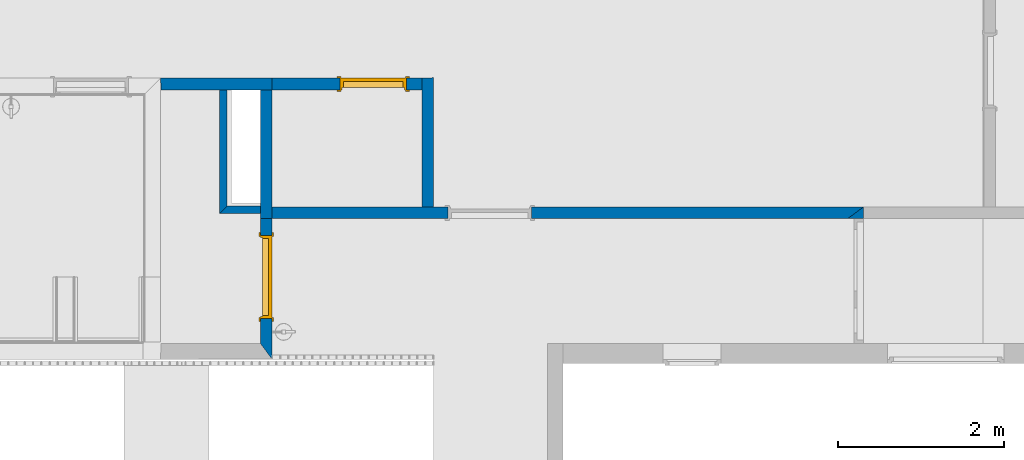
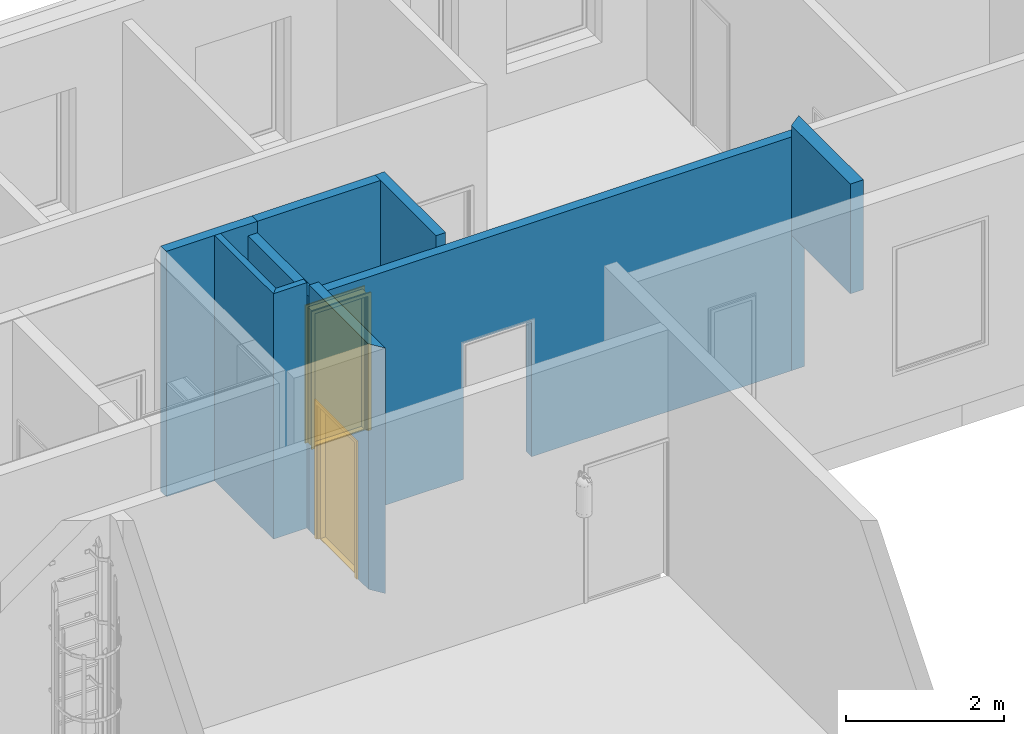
# One storey, part 4 of 100: 9 walls, 2 doors, 4 openings.
"""IFC2X3 building model written with IfcOpenShell, lengths in millimetres."""

from ifc_helpers import new_model, entity, si_unit, converted_unit, derived_unit, money_unit, direction, frame, origin_with_axes, origin_2d_with_axis, place, context, subcontext, project, spatial, polyline, rectangle, outline, extrude, faceted_brep, source, transform, mapped, material, layer, layer_set, layer_usage, type_object, element, fill, save


model = new_model("IFC2X3")

# Units and contexts
model_context = context("Model", 3, precision=0.01, world=origin_with_axes(), true_north=direction((0.0, 1.0)))
body_context = subcontext(model_context, "Body", "Model", "MODEL_VIEW")
ifc_project = project(units=[si_unit("LENGTHUNIT", "METRE", prefix="MILLI"), si_unit("AREAUNIT", "SQUARE_METRE"), si_unit("VOLUMEUNIT", "CUBIC_METRE"), converted_unit("PLANEANGLEUNIT", "DEGREE", entity("IfcPlaneAngleMeasure", 0.0174532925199), si_unit("PLANEANGLEUNIT", "RADIAN"), dimensions=[0, 0, 0, 0, 0, 0, 0]), si_unit("SOLIDANGLEUNIT", "STERADIAN"), money_unit("EUR"), converted_unit("TIMEUNIT", "Year", entity("IfcTimeMeasure", 31556926.0), si_unit("TIMEUNIT", "SECOND"), dimensions=[0, 0, 1, 0, 0, 0, 0]), si_unit("MASSUNIT", "GRAM", prefix="KILO"), si_unit("THERMODYNAMICTEMPERATUREUNIT", "DEGREE_CELSIUS"), si_unit("LUMINOUSINTENSITYUNIT", "LUMEN"), si_unit("ENERGYUNIT", "JOULE", prefix="MEGA"), derived_unit("THERMALCONDUCTANCEUNIT", [(si_unit("POWERUNIT", "WATT"), 1), (si_unit("LENGTHUNIT", "METRE"), -1), (si_unit("THERMODYNAMICTEMPERATUREUNIT", "KELVIN"), -1)]), derived_unit("SPECIFICHEATCAPACITYUNIT", [(si_unit("ENERGYUNIT", "JOULE"), 1), (si_unit("MASSUNIT", "GRAM", prefix="KILO"), -1), (si_unit("THERMODYNAMICTEMPERATUREUNIT", "KELVIN"), -1)]), derived_unit("MASSDENSITYUNIT", [(si_unit("MASSUNIT", "GRAM", prefix="KILO"), 1), (si_unit("VOLUMEUNIT", "CUBIC_METRE"), -1)])], contexts=[model_context])

# Site, building, storey
site_placement = place(None, origin_with_axes())
site = spatial("IfcSite", under=ifc_project, at=site_placement, Name="Politse- ja Piirivalveameti ning Päästeameti ühishoone", CompositionType="ELEMENT")
building_placement = place(site_placement, origin_with_axes())
building = spatial("IfcBuilding", under=site, at=building_placement, Name="Politse- ja Piirivalveameti ning Päästeameti ühishoone", CompositionType="ELEMENT")
storey_placement = place(building_placement, frame((0.0, 0.0, 3800.0), z_axis=(0.0, 0.0, 1.0), x_axis=(1.0, 0.0, 0.0)))
storey = spatial("IfcBuildingStorey", under=building, at=storey_placement, Name="Teine korrus", CompositionType="ELEMENT", Elevation=3800.0)

# Wall, opening
ifc_material = material(Name="KON-05_Betoon Plokk - Konstuktsioon")
ifc_layer_1 = layer(ifc_material, 190.0, ventilated="UNKNOWN")
ifc_layer_set_1 = layer_set([ifc_layer_1], Name="SS-03_Sisesein 190")
ifc_layer_usage_1 = layer_usage(ifc_layer_set_1, "AXIS2", "POSITIVE", 0.0)
wall_type_1 = type_object("IfcWallType", Name="SS-03_Sisesein 190 190", PredefinedType="NOTDEFINED")
wall_1_placement = place(storey_placement, frame((30369.9035567, 13000.0198611, 0.0), z_axis=(0.0, 0.0, 1.0), x_axis=(0.0, 1.0, 0.0)))
wall_1 = element("IfcWallStandardCase", 1, at=wall_1_placement, inside=storey, type_object=wall_type_1, material=ifc_layer_usage_1, Name="SS-03", context=body_context, shape_type="SweptSolid", body=[
    extrude(outline(polyline([(0.0, 0.0), (1640.0222917, 0.0), (1500.0222917, 190.0), (0.0, 190.0), (0.0, 0.0)])), origin_with_axes(), (0.0, 0.0, 1.0), 3800.0),
])
opening_1_placement = place(wall_1_placement, frame((750.0, 0.0, 0.0), z_axis=(0.0, 0.0, 1.0), x_axis=(1.0, 0.0, 0.0)))
element("IfcOpeningElement", 2, at=opening_1_placement, cuts=wall_1, Name="TU-01-6", context=body_context, shape_type="SweptSolid", body=[
    extrude(rectangle(XDim=1500.0, YDim=2100.0, at=origin_2d_with_axis()), frame((0.0, 190.0, 1050.0), z_axis=(0.0, 1.0, 0.0), x_axis=(-1.0, 0.0, 0.0)), (0.0, 0.0, -1.0), 570.0),
])

ifc_layer_2 = layer(ifc_material, 140.0, ventilated="UNKNOWN")
ifc_layer_set_2 = layer_set([ifc_layer_2], Name="SS-02_Sisesein 140")
ifc_layer_usage_2 = layer_usage(ifc_layer_set_2, "AXIS2", "NEGATIVE", 140.0)
wall_type_2 = type_object("IfcWallType", Name="SS-02_Sisesein 140 140", PredefinedType="NOTDEFINED")
wall_2_placement = place(storey_placement, frame((23120.0260184, 14500.0421528, 0.0), z_axis=(0.0, 0.0, 1.0), x_axis=(1.0, 0.0, 0.0)))
wall_2 = element("IfcWallStandardCase", 3, at=wall_2_placement, inside=storey, type_object=wall_type_2, material=ifc_layer_usage_2, Name="SS-02", context=body_context, shape_type="SweptSolid", body=[
    extrude(outline(polyline([(0.0, 0.0), (7059.87753836, 0.0), (7249.87753836, 140.0), (0.0, 140.0), (0.0, 0.0)])), origin_with_axes(), (0.0, 0.0, 1.0), 3620.0),
])
opening_2_placement = place(wall_2_placement, frame((2758.51786575, 0.0, 0.0), z_axis=(0.0, 0.0, 1.0), x_axis=(1.0, 0.0, 0.0)))
element("IfcOpeningElement", 4, at=opening_2_placement, cuts=wall_2, Name="TU-01-8", context=body_context, shape_type="SweptSolid", body=[
    extrude(rectangle(XDim=1000.0, YDim=2100.0, at=origin_2d_with_axis()), frame((0.0, 140.0, 1050.0), z_axis=(0.0, 1.0, 0.0), x_axis=(-1.0, 0.0, 0.0)), (0.0, 0.0, -1.0), 420.0),
    extrude(rectangle(XDim=1074.0, YDim=2137.0, at=origin_2d_with_axis()), frame((0.0, 140.0, 1068.5), z_axis=(0.0, 1.0, 0.0), x_axis=(-1.0, 0.0, 0.0)), (0.0, 0.0, 1.0), 140.0),
    extrude(rectangle(XDim=1074.0, YDim=2137.0, at=origin_2d_with_axis()), frame((0.0, 0.0, 1068.5), z_axis=(0.0, -1.0, 0.0), x_axis=(-1.0, 0.0, 0.0)), (0.0, 0.0, 1.0), 140.0),
])

# Walls
ifc_layer_usage_3 = layer_usage(ifc_layer_set_2, "AXIS2", "POSITIVE", 0.0)
wall_3_placement = place(storey_placement, frame((25200.0260184, 14500.0421528, 0.0), z_axis=(0.0, 0.0, 1.0), x_axis=(0.0, 1.0, 0.0)))
element("IfcWallStandardCase", 5, at=wall_3_placement, inside=storey, type_object=wall_type_2, material=ifc_layer_usage_3, Name="SS-02", context=body_context, shape_type="SweptSolid", body=[
    extrude(outline(polyline([(140.0, 0.0), (1694.77545854, 0.0), (1689.77545854, 140.0), (140.0, 140.0), (140.0, 0.0)])), origin_with_axes(), (0.0, 0.0, 1.0), 3800.0),
])
ifc_layer_usage_4 = layer_usage(ifc_layer_set_2, "AXIS2", "POSITIVE", 0.0)
wall_4_placement = place(storey_placement, frame((23120.0260184, 16049.8176113, 0.0), z_axis=(0.0, 0.0, 1.0), x_axis=(0.0, -1.0, 0.0)))
element("IfcWallStandardCase", 6, at=wall_4_placement, inside=storey, type_object=wall_type_2, material=ifc_layer_usage_4, Name="SS-02", context=body_context, shape_type="SweptSolid", body=[
    extrude(outline(polyline([(0.0, 0.0), (1549.77545854, 0.0), (1549.77545854, 140.0), (0.0, 140.0), (0.0, 0.0)])), origin_with_axes(), (0.0, 0.0, 1.0), 3620.0),
])
ifc_layer_usage_5 = layer_usage(ifc_layer_set_2, "AXIS2", "POSITIVE", 0.0)
wall_5_placement = place(storey_placement, frame((21920.0260184, 16049.8176113, 0.0), z_axis=(0.0, 0.0, 1.0), x_axis=(1.0, 0.0, 0.0)))
element("IfcWallStandardCase", 7, at=wall_5_placement, inside=storey, type_object=wall_type_2, material=ifc_layer_usage_5, Name="SS-02", context=body_context, shape_type="SweptSolid", body=[
    extrude(outline(polyline([(5.0, 0.0), (1340.0, 0.0), (1340.0, 140.0), (0.0, 140.0), (5.0, 0.0)])), origin_with_axes(), (0.0, 0.0, 1.0), 3800.0),
])

# Wall, opening, door
ifc_layer_usage_6 = layer_usage(ifc_layer_set_2, "AXIS2", "POSITIVE", 0.0)
wall_6_placement = place(storey_placement, frame((23260.0260184, 16049.8176113, 0.0), z_axis=(0.0, 0.0, 1.0), x_axis=(1.0, 0.0, 0.0)))
wall_6 = element("IfcWallStandardCase", 8, at=wall_6_placement, inside=storey, type_object=wall_type_2, material=ifc_layer_usage_6, Name="SS-02", context=body_context, shape_type="SweptSolid", body=[
    extrude(outline(polyline([(0.0, 0.0), (1800.0, 0.0), (1800.0, 140.0), (0.0, 140.0), (0.0, 0.0)])), origin_with_axes(), (0.0, 0.0, 1.0), 3800.0),
])
opening_3_placement = place(wall_6_placement, frame((1217.33890919, 0.0, 0.0), z_axis=(0.0, 0.0, 1.0), x_axis=(1.0, 0.0, 0.0)))
opening_3 = element("IfcOpeningElement", 9, at=opening_3_placement, cuts=wall_6, Name="SU-02-1", context=body_context, shape_type="SweptSolid", body=[
    extrude(rectangle(XDim=800.0, YDim=2100.0, at=origin_2d_with_axis()), frame((0.0, -140.0, 1050.0), z_axis=(0.0, -1.0, 0.0), x_axis=(-1.0, 0.0, 0.0)), (0.0, 0.0, -1.0), 420.0),
    extrude(rectangle(XDim=874.0, YDim=2137.0, at=origin_2d_with_axis()), frame((0.0, 0.0, 1068.5), z_axis=(0.0, -1.0, 0.0), x_axis=(-1.0, 0.0, 0.0)), (0.0, 0.0, 1.0), 140.0),
    extrude(rectangle(XDim=874.0, YDim=2137.0, at=origin_2d_with_axis()), frame((0.0, 140.0, 1068.5), z_axis=(0.0, 1.0, 0.0), x_axis=(-1.0, 0.0, 0.0)), (0.0, 0.0, 1.0), 140.0),
])
door_style = type_object("IfcDoorStyle", Name="Door 23", ConstructionType="NOTDEFINED", OperationType="SINGLE_SWING_LEFT", ParameterTakesPrecedence=False, Sizeable=False)
shared_shape_1 = source(origin_with_axes(), body_context, "Body", "Brep", [
    faceted_brep([(-372.0, -40.0, 0.0), (-360.0, -40.0, 0.0), (-360.0, -40.0, 12.0), (-372.0, -40.0, 12.0), (372.0, -40.0, 0.0), (360.0, -40.0, 0.0), (360.0, -115.0, 0.0), (-360.0, -115.0, 0.0), (-360.0, -115.0, 12.0), (360.0, -115.0, 12.0), (360.0, -40.0, 12.0), (372.0, -40.0, 12.0)], [[[0, 1, 2, 3]], [[0, 4, 5, 6, 7, 1]], [[1, 7, 8, 2]], [[3, 2, 8, 9, 10, 11]], [[4, 0, 3, 11]], [[5, 4, 11, 10]], [[6, 5, 10, 9]], [[7, 6, 9, 8]]]),
    faceted_brep([(400.0, -115.0, 0.0), (400.0, -140.0, 0.0), (375.0, -140.0, 0.0), (375.0, -115.0, 0.0), (400.0, -115.0, 2100.0), (400.0, -140.0, 2100.0), (375.0, -140.0, 2075.0), (375.0, -115.0, 2075.0)], [[[0, 1, 2, 3]], [[4, 5, 1, 0]], [[1, 5, 6, 2]], [[3, 2, 6, 7]], [[0, 3, 7, 4]], [[7, 6, 5, 4]]]),
    faceted_brep([(-400.0, -115.0, 2100.0), (-400.0, -140.0, 2100.0), (-375.0, -140.0, 2075.0), (-375.0, -115.0, 2075.0), (-400.0, -115.0, 0.0), (-400.0, -140.0, 0.0), (-375.0, -140.0, 0.0), (-375.0, -115.0, 0.0)], [[[0, 1, 2, 3]], [[4, 5, 1, 0]], [[1, 5, 6, 2]], [[3, 2, 6, 7]], [[0, 3, 7, 4]], [[7, 6, 5, 4]]]),
    faceted_brep([(375.0, -115.0, 2075.0), (375.0, -140.0, 2075.0), (-375.0, -140.0, 2075.0), (-375.0, -115.0, 2075.0), (400.0, -115.0, 2100.0), (400.0, -140.0, 2100.0), (-400.0, -140.0, 2100.0), (-400.0, -115.0, 2100.0)], [[[0, 1, 2, 3]], [[4, 5, 1, 0]], [[1, 5, 6, 2]], [[3, 2, 6, 7]], [[0, 3, 7, 4]], [[7, 6, 5, 4]]]),
    faceted_brep([(437.0, -159.0, 0.0), (387.0, -159.0, 0.0), (387.0, -140.0, 0.0), (437.0, -140.0, 0.0), (437.0, -159.0, 2137.0), (387.0, -159.0, 2087.0), (387.0, -140.0, 2087.0), (437.0, -140.0, 2137.0)], [[[0, 1, 2, 3]], [[0, 4, 5, 1]], [[1, 5, 6, 2]], [[3, 2, 6, 7]], [[4, 0, 3, 7]], [[5, 4, 7, 6]]]),
    faceted_brep([(-437.0, -159.0, 2137.0), (-387.0, -159.0, 2087.0), (-387.0, -140.0, 2087.0), (-437.0, -140.0, 2137.0), (-437.0, -159.0, 0.0), (-387.0, -159.0, 0.0), (-387.0, -140.0, 0.0), (-437.0, -140.0, 0.0)], [[[0, 1, 2, 3]], [[0, 4, 5, 1]], [[1, 5, 6, 2]], [[3, 2, 6, 7]], [[4, 0, 3, 7]], [[5, 4, 7, 6]]]),
    faceted_brep([(437.0, -159.0, 2137.0), (387.0, -159.0, 2087.0), (387.0, -140.0, 2087.0), (437.0, -140.0, 2137.0), (-437.0, -159.0, 2137.0), (-387.0, -159.0, 2087.0), (-387.0, -140.0, 2087.0), (-437.0, -140.0, 2137.0)], [[[0, 1, 2, 3]], [[0, 4, 5, 1]], [[1, 5, 6, 2]], [[3, 2, 6, 7]], [[4, 0, 3, 7]], [[5, 4, 7, 6]]]),
    faceted_brep([(437.0, 19.0, 0.0), (437.0, 0.0, 0.0), (387.0, 0.0, 0.0), (387.0, 19.0, 0.0), (437.0, 19.0, 2137.0), (437.0, 0.0, 2137.0), (387.0, 0.0, 2087.0), (387.0, 19.0, 2087.0)], [[[0, 1, 2, 3]], [[4, 5, 1, 0]], [[1, 5, 6, 2]], [[3, 2, 6, 7]], [[0, 3, 7, 4]], [[7, 6, 5, 4]]]),
    faceted_brep([(-437.0, 19.0, 2137.0), (-437.0, 0.0, 2137.0), (-387.0, 0.0, 2087.0), (-387.0, 19.0, 2087.0), (-437.0, 19.0, 0.0), (-437.0, 0.0, 0.0), (-387.0, 0.0, 0.0), (-387.0, 19.0, 0.0)], [[[0, 1, 2, 3]], [[4, 5, 1, 0]], [[1, 5, 6, 2]], [[3, 2, 6, 7]], [[0, 3, 7, 4]], [[7, 6, 5, 4]]]),
    faceted_brep([(437.0, 19.0, 2137.0), (437.0, 0.0, 2137.0), (387.0, 0.0, 2087.0), (387.0, 19.0, 2087.0), (-437.0, 19.0, 2137.0), (-437.0, 0.0, 2137.0), (-387.0, 0.0, 2087.0), (-387.0, 19.0, 2087.0)], [[[0, 1, 2, 3]], [[4, 5, 1, 0]], [[1, 5, 6, 2]], [[3, 2, 6, 7]], [[0, 3, 7, 4]], [[7, 6, 5, 4]]]),
    faceted_brep([(360.0, -40.0, 0.0), (360.0, -115.0, 0.0), (360.0, -115.0, 2060.0), (360.0, -40.0, 2060.0), (372.0, -40.0, 0.0), (372.0, 0.0, 0.0), (400.0, 0.0, 0.0), (400.0, -115.0, 0.0), (400.0, -115.0, 2060.0), (372.0, -40.0, 2060.0), (400.0, 0.0, 2060.0), (372.0, 0.0, 2060.0)], [[[0, 1, 2, 3]], [[4, 5, 6, 7, 1, 0]], [[1, 7, 8, 2]], [[9, 3, 2, 8, 10, 11]], [[9, 4, 0, 3]], [[11, 5, 4, 9]], [[11, 10, 6, 5]], [[6, 10, 8, 7]]]),
    faceted_brep([(-372.0, -40.0, 2060.0), (-372.0, 0.0, 2060.0), (-400.0, 0.0, 2060.0), (-400.0, -115.0, 2060.0), (-360.0, -115.0, 2060.0), (-360.0, -40.0, 2060.0), (-372.0, -40.0, 0.0), (-372.0, 0.0, 0.0), (-400.0, 0.0, 0.0), (-400.0, -115.0, 0.0), (-360.0, -115.0, 0.0), (-360.0, -40.0, 0.0)], [[[0, 1, 2, 3, 4, 5]], [[0, 6, 7, 1]], [[7, 8, 2, 1]], [[2, 8, 9, 3]], [[3, 9, 10, 4]], [[5, 4, 10, 11]], [[5, 11, 6, 0]], [[6, 11, 10, 9, 8, 7]]]),
    faceted_brep([(372.0, 0.0, 2072.0), (-372.0, 0.0, 2072.0), (-372.0, 0.0, 2060.0), (-400.0, 0.0, 2060.0), (-400.0, 0.0, 2100.0), (400.0, 0.0, 2100.0), (400.0, 0.0, 2060.0), (372.0, 0.0, 2060.0), (372.0, -40.0, 2072.0), (-372.0, -40.0, 2072.0), (-372.0, -40.0, 2060.0), (-360.0, -40.0, 2060.0), (-360.0, -115.0, 2060.0), (-400.0, -115.0, 2060.0), (-400.0, -115.0, 2100.0), (400.0, -115.0, 2100.0), (400.0, -115.0, 2060.0), (372.0, -40.0, 2060.0), (360.0, -115.0, 2060.0), (360.0, -40.0, 2060.0)], [[[0, 1, 2, 3, 4, 5, 6, 7]], [[0, 8, 9, 1]], [[1, 9, 10, 2]], [[10, 11, 12, 13, 3, 2]], [[4, 3, 13, 14]], [[5, 4, 14, 15]], [[6, 5, 15, 16]], [[17, 7, 6, 16, 18, 19]], [[7, 17, 8, 0]], [[10, 9, 8, 17, 19, 11]], [[19, 18, 12, 11]], [[12, 18, 16, 15, 14, 13]]]),
    faceted_brep([(-372.0, 0.0, 0.0), (372.0, 0.0, 0.0), (372.0, -40.0, 0.0), (-372.0, -40.0, 0.0), (-372.0, 0.0, 2072.0), (372.0, 0.0, 2072.0), (372.0, -40.0, 2072.0), (-372.0, -40.0, 2072.0)], [[[0, 1, 2, 3]], [[0, 4, 5, 1]], [[1, 5, 6, 2]], [[3, 2, 6, 7]], [[4, 0, 3, 7]], [[5, 4, 7, 6]]]),
])
door_1_placement = place(opening_3_placement, frame((-400.0, 0.0, 0.0), z_axis=(0.0, 0.0, 1.0), x_axis=(1.0, 0.0, 0.0)))
door_1 = element("IfcDoor", 10, at=door_1_placement, inside=storey, type_object=door_style, Name="SU-02-1", ObjectType="DOOR", OverallHeight=2100.0, OverallWidth=800.0, context=body_context, shape_type="MappedRepresentation", body=[
    mapped(shared_shape_1, transform((400.0, 140.0, 0.0))),
])
fill(opening_3, door_1)

ifc_layer_usage_7 = layer_usage(ifc_layer_set_2, "AXIS2", "POSITIVE", 0.0)
wall_7_placement = place(storey_placement, frame((23120.0260184, 14500.0421528, 0.0), z_axis=(0.0, 0.0, 1.0), x_axis=(0.0, -1.0, 0.0)))
wall_7 = element("IfcWallStandardCase", 11, at=wall_7_placement, inside=storey, type_object=wall_type_2, material=ifc_layer_usage_7, Name="SS-02", context=body_context, shape_type="SweptSolid", body=[
    extrude(outline(polyline([(0.0, 0.0), (1499.96986736, 0.0), (1689.96375137, 140.0), (0.0, 140.0), (0.0, 0.0)])), origin_with_axes(), (0.0, 0.0, 1.0), 3800.0),
])
opening_4_placement = place(wall_7_placement, frame((701.296815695, 0.0, 0.0), z_axis=(0.0, 0.0, 1.0), x_axis=(1.0, 0.0, 0.0)))
opening_4 = element("IfcOpeningElement", 12, at=opening_4_placement, cuts=wall_7, Name="SU-01-2", context=body_context, shape_type="SweptSolid", body=[
    extrude(rectangle(XDim=1000.0, YDim=2100.0, at=origin_2d_with_axis()), frame((0.0, -140.0, 1050.0), z_axis=(0.0, -1.0, 0.0), x_axis=(-1.0, 0.0, 0.0)), (0.0, 0.0, -1.0), 420.0),
    extrude(rectangle(XDim=1074.0, YDim=2137.0, at=origin_2d_with_axis()), frame((0.0, 0.0, 1068.5), z_axis=(0.0, -1.0, 0.0), x_axis=(-1.0, 0.0, 0.0)), (0.0, 0.0, 1.0), 140.0),
    extrude(rectangle(XDim=1074.0, YDim=2137.0, at=origin_2d_with_axis()), frame((0.0, 140.0, 1068.5), z_axis=(0.0, 1.0, 0.0), x_axis=(-1.0, 0.0, 0.0)), (0.0, 0.0, 1.0), 140.0),
])
shared_shape_2 = source(origin_with_axes(), body_context, "Body", "Brep", [
    faceted_brep([(-472.0, -40.0, 0.0), (-460.0, -40.0, 0.0), (-460.0, -40.0, 12.0), (-472.0, -40.0, 12.0), (472.0, -40.0, 0.0), (460.0, -40.0, 0.0), (460.0, -115.0, 0.0), (-460.0, -115.0, 0.0), (-460.0, -115.0, 12.0), (460.0, -115.0, 12.0), (460.0, -40.0, 12.0), (472.0, -40.0, 12.0)], [[[0, 1, 2, 3]], [[0, 4, 5, 6, 7, 1]], [[1, 7, 8, 2]], [[3, 2, 8, 9, 10, 11]], [[4, 0, 3, 11]], [[5, 4, 11, 10]], [[6, 5, 10, 9]], [[7, 6, 9, 8]]]),
    faceted_brep([(500.0, -115.0, 0.0), (500.0, -140.0, 0.0), (475.0, -140.0, 0.0), (475.0, -115.0, 0.0), (500.0, -115.0, 2100.0), (500.0, -140.0, 2100.0), (475.0, -140.0, 2075.0), (475.0, -115.0, 2075.0)], [[[0, 1, 2, 3]], [[4, 5, 1, 0]], [[1, 5, 6, 2]], [[3, 2, 6, 7]], [[0, 3, 7, 4]], [[7, 6, 5, 4]]]),
    faceted_brep([(-500.0, -115.0, 2100.0), (-500.0, -140.0, 2100.0), (-475.0, -140.0, 2075.0), (-475.0, -115.0, 2075.0), (-500.0, -115.0, 0.0), (-500.0, -140.0, 0.0), (-475.0, -140.0, 0.0), (-475.0, -115.0, 0.0)], [[[0, 1, 2, 3]], [[4, 5, 1, 0]], [[1, 5, 6, 2]], [[3, 2, 6, 7]], [[0, 3, 7, 4]], [[7, 6, 5, 4]]]),
    faceted_brep([(475.0, -115.0, 2075.0), (475.0, -140.0, 2075.0), (-475.0, -140.0, 2075.0), (-475.0, -115.0, 2075.0), (500.0, -115.0, 2100.0), (500.0, -140.0, 2100.0), (-500.0, -140.0, 2100.0), (-500.0, -115.0, 2100.0)], [[[0, 1, 2, 3]], [[4, 5, 1, 0]], [[1, 5, 6, 2]], [[3, 2, 6, 7]], [[0, 3, 7, 4]], [[7, 6, 5, 4]]]),
    faceted_brep([(537.0, -159.0, 0.0), (487.0, -159.0, 0.0), (487.0, -140.0, 0.0), (537.0, -140.0, 0.0), (537.0, -159.0, 2137.0), (487.0, -159.0, 2087.0), (487.0, -140.0, 2087.0), (537.0, -140.0, 2137.0)], [[[0, 1, 2, 3]], [[0, 4, 5, 1]], [[1, 5, 6, 2]], [[3, 2, 6, 7]], [[4, 0, 3, 7]], [[5, 4, 7, 6]]]),
    faceted_brep([(-537.0, -159.0, 2137.0), (-487.0, -159.0, 2087.0), (-487.0, -140.0, 2087.0), (-537.0, -140.0, 2137.0), (-537.0, -159.0, 0.0), (-487.0, -159.0, 0.0), (-487.0, -140.0, 0.0), (-537.0, -140.0, 0.0)], [[[0, 1, 2, 3]], [[0, 4, 5, 1]], [[1, 5, 6, 2]], [[3, 2, 6, 7]], [[4, 0, 3, 7]], [[5, 4, 7, 6]]]),
    faceted_brep([(537.0, -159.0, 2137.0), (487.0, -159.0, 2087.0), (487.0, -140.0, 2087.0), (537.0, -140.0, 2137.0), (-537.0, -159.0, 2137.0), (-487.0, -159.0, 2087.0), (-487.0, -140.0, 2087.0), (-537.0, -140.0, 2137.0)], [[[0, 1, 2, 3]], [[0, 4, 5, 1]], [[1, 5, 6, 2]], [[3, 2, 6, 7]], [[4, 0, 3, 7]], [[5, 4, 7, 6]]]),
    faceted_brep([(537.0, 19.0, 0.0), (537.0, 0.0, 0.0), (487.0, 0.0, 0.0), (487.0, 19.0, 0.0), (537.0, 19.0, 2137.0), (537.0, 0.0, 2137.0), (487.0, 0.0, 2087.0), (487.0, 19.0, 2087.0)], [[[0, 1, 2, 3]], [[4, 5, 1, 0]], [[1, 5, 6, 2]], [[3, 2, 6, 7]], [[0, 3, 7, 4]], [[7, 6, 5, 4]]]),
    faceted_brep([(-537.0, 19.0, 2137.0), (-537.0, 0.0, 2137.0), (-487.0, 0.0, 2087.0), (-487.0, 19.0, 2087.0), (-537.0, 19.0, 0.0), (-537.0, 0.0, 0.0), (-487.0, 0.0, 0.0), (-487.0, 19.0, 0.0)], [[[0, 1, 2, 3]], [[4, 5, 1, 0]], [[1, 5, 6, 2]], [[3, 2, 6, 7]], [[0, 3, 7, 4]], [[7, 6, 5, 4]]]),
    faceted_brep([(537.0, 19.0, 2137.0), (537.0, 0.0, 2137.0), (487.0, 0.0, 2087.0), (487.0, 19.0, 2087.0), (-537.0, 19.0, 2137.0), (-537.0, 0.0, 2137.0), (-487.0, 0.0, 2087.0), (-487.0, 19.0, 2087.0)], [[[0, 1, 2, 3]], [[4, 5, 1, 0]], [[1, 5, 6, 2]], [[3, 2, 6, 7]], [[0, 3, 7, 4]], [[7, 6, 5, 4]]]),
    faceted_brep([(460.0, -40.0, 0.0), (460.0, -115.0, 0.0), (460.0, -115.0, 2060.0), (460.0, -40.0, 2060.0), (472.0, -40.0, 0.0), (472.0, 0.0, 0.0), (500.0, 0.0, 0.0), (500.0, -115.0, 0.0), (500.0, -115.0, 2060.0), (472.0, -40.0, 2060.0), (500.0, 0.0, 2060.0), (472.0, 0.0, 2060.0)], [[[0, 1, 2, 3]], [[4, 5, 6, 7, 1, 0]], [[1, 7, 8, 2]], [[9, 3, 2, 8, 10, 11]], [[9, 4, 0, 3]], [[11, 5, 4, 9]], [[11, 10, 6, 5]], [[6, 10, 8, 7]]]),
    faceted_brep([(-472.0, -40.0, 2060.0), (-472.0, 0.0, 2060.0), (-500.0, 0.0, 2060.0), (-500.0, -115.0, 2060.0), (-460.0, -115.0, 2060.0), (-460.0, -40.0, 2060.0), (-472.0, -40.0, 0.0), (-472.0, 0.0, 0.0), (-500.0, 0.0, 0.0), (-500.0, -115.0, 0.0), (-460.0, -115.0, 0.0), (-460.0, -40.0, 0.0)], [[[0, 1, 2, 3, 4, 5]], [[0, 6, 7, 1]], [[7, 8, 2, 1]], [[2, 8, 9, 3]], [[3, 9, 10, 4]], [[5, 4, 10, 11]], [[5, 11, 6, 0]], [[6, 11, 10, 9, 8, 7]]]),
    faceted_brep([(472.0, 0.0, 2072.0), (-472.0, 0.0, 2072.0), (-472.0, 0.0, 2060.0), (-500.0, 0.0, 2060.0), (-500.0, 0.0, 2100.0), (500.0, 0.0, 2100.0), (500.0, 0.0, 2060.0), (472.0, 0.0, 2060.0), (472.0, -40.0, 2072.0), (-472.0, -40.0, 2072.0), (-472.0, -40.0, 2060.0), (-460.0, -40.0, 2060.0), (-460.0, -115.0, 2060.0), (-500.0, -115.0, 2060.0), (-500.0, -115.0, 2100.0), (500.0, -115.0, 2100.0), (500.0, -115.0, 2060.0), (472.0, -40.0, 2060.0), (460.0, -115.0, 2060.0), (460.0, -40.0, 2060.0)], [[[0, 1, 2, 3, 4, 5, 6, 7]], [[0, 8, 9, 1]], [[1, 9, 10, 2]], [[10, 11, 12, 13, 3, 2]], [[4, 3, 13, 14]], [[5, 4, 14, 15]], [[6, 5, 15, 16]], [[17, 7, 6, 16, 18, 19]], [[7, 17, 8, 0]], [[10, 9, 8, 17, 19, 11]], [[19, 18, 12, 11]], [[12, 18, 16, 15, 14, 13]]]),
    faceted_brep([(-472.0, 0.0, 0.0), (472.0, 0.0, 0.0), (472.0, -40.0, 0.0), (-472.0, -40.0, 0.0), (-472.0, 0.0, 2072.0), (472.0, 0.0, 2072.0), (472.0, -40.0, 2072.0), (-472.0, -40.0, 2072.0)], [[[0, 1, 2, 3]], [[0, 4, 5, 1]], [[1, 5, 6, 2]], [[3, 2, 6, 7]], [[4, 0, 3, 7]], [[5, 4, 7, 6]]]),
])
door_2_placement = place(opening_4_placement, frame((-500.0, 0.0, 0.0), z_axis=(0.0, 0.0, 1.0), x_axis=(1.0, 0.0, 0.0)))
door_2 = element("IfcDoor", 13, at=door_2_placement, inside=storey, type_object=door_style, Name="SU-01-2", ObjectType="DOOR", OverallHeight=2100.0, OverallWidth=1000.0, context=body_context, shape_type="MappedRepresentation", body=[
    mapped(shared_shape_2, transform((500.0, 140.0, 0.0))),
])
fill(opening_4, door_2)

# Walls
ifc_layer_3 = layer(ifc_material, 90.0, ventilated="UNKNOWN")
ifc_layer_set_3 = layer_set([ifc_layer_3], Name="SS-06_Sisesein - 90 blokk")
ifc_layer_usage_8 = layer_usage(ifc_layer_set_3, "AXIS2", "NEGATIVE", 0.0)
wall_type_3 = type_object("IfcWallType", Name="SS-06_Sisesein - 90 blokk 90", PredefinedType="NOTDEFINED")
wall_8_placement = place(storey_placement, frame((22720.0260184, 16049.8176113, 0.0), z_axis=(0.0, 0.0, 1.0), x_axis=(0.0, -1.0, 0.0)))
element("IfcWallStandardCase", 14, at=wall_8_placement, inside=storey, type_object=wall_type_3, material=ifc_layer_usage_8, Name="SS-06", context=body_context, shape_type="SweptSolid", body=[
    extrude(outline(polyline([(0.0, -90.0), (1490.0, -90.0), (1400.0, 0.0), (0.0, 0.0), (0.0, -90.0)])), origin_with_axes(), (0.0, 0.0, 1.0), 3800.0),
])
ifc_layer_usage_9 = layer_usage(ifc_layer_set_3, "AXIS2", "NEGATIVE", 0.0)
wall_9_placement = place(storey_placement, frame((22720.0260184, 14649.8176113, 0.0), z_axis=(0.0, 0.0, 1.0), x_axis=(1.0, 0.0, 0.0)))
element("IfcWallStandardCase", 15, at=wall_9_placement, inside=storey, type_object=wall_type_3, material=ifc_layer_usage_9, Name="SS-06", context=body_context, shape_type="SweptSolid", body=[
    extrude(outline(polyline([(-90.0, -90.0), (400.0, -90.0), (400.0, 0.0), (0.0, 0.0), (-90.0, -90.0)])), origin_with_axes(), (0.0, 0.0, 1.0), 3800.0),
])

save(model, "model.ifc")
